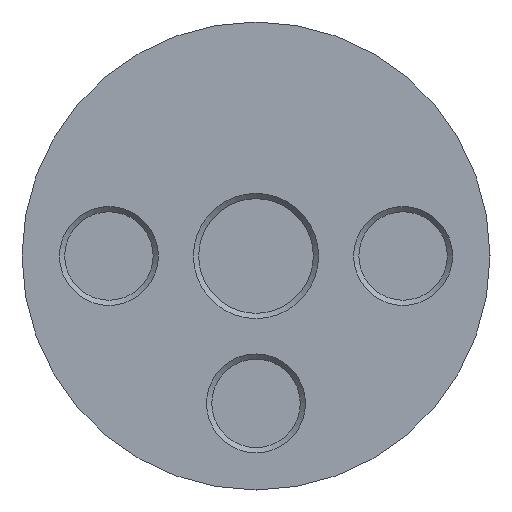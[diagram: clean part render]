
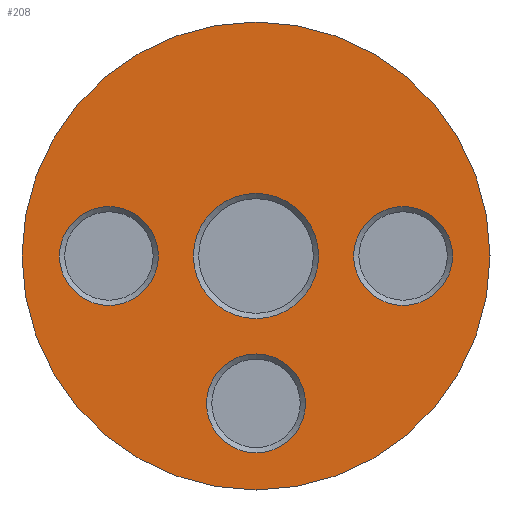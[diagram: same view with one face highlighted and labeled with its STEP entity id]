
A CAD part, front view. The second image highlights one B-rep face of the part: STEP entity #208.
In plain terms, the highlighted planar face has unit normal (0, -1, 0).
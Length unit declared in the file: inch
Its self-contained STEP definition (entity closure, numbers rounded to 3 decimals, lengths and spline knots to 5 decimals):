
#135=CARTESIAN_POINT('',(0.09252,0.09488,-0.27559));
#136=VERTEX_POINT('',#135);
#137=CARTESIAN_POINT('',(0.,0.09488,-0.27559));
#138=DIRECTION('',(0.0,-1.0,0.0));
#139=DIRECTION('',(-1.0,0.0,0.0));
#140=AXIS2_PLACEMENT_3D('',#137,#138,#139);
#141=CIRCLE('',#140,0.09252);
#142=EDGE_CURVE('',#136,#136,#141,.T.);
#147=CARTESIAN_POINT('',(0.,0.09488,0.));
#148=DIRECTION('',(0.0,1.0,0.0));
#149=DIRECTION('',(0.0,0.0,1.0));
#150=AXIS2_PLACEMENT_3D('',#147,#148,#149);
#151=PLANE('',#150);
#152=CARTESIAN_POINT('',(-0.4375,0.09488,0.0));
#153=VERTEX_POINT('',#152);
#154=CARTESIAN_POINT('',(0.4375,0.09488,0.));
#155=VERTEX_POINT('',#154);
#156=CARTESIAN_POINT('',(0.,0.09488,0.0));
#157=DIRECTION('',(0.0,1.0,0.0));
#158=DIRECTION('',(-1.0,0.0,0.0));
#159=AXIS2_PLACEMENT_3D('',#156,#157,#158);
#160=CIRCLE('',#159,0.4375);
#161=EDGE_CURVE('',#153,#155,#160,.T.);
#162=ORIENTED_EDGE('',*,*,#161,.F.);
#163=CARTESIAN_POINT('',(0.,0.09488,0.0));
#164=DIRECTION('',(0.0,1.0,0.0));
#165=DIRECTION('',(-1.0,0.0,0.0));
#166=AXIS2_PLACEMENT_3D('',#163,#164,#165);
#167=CIRCLE('',#166,0.4375);
#168=EDGE_CURVE('',#155,#153,#167,.T.);
#169=ORIENTED_EDGE('',*,*,#168,.F.);
#170=EDGE_LOOP('',(#162,#169));
#171=FACE_OUTER_BOUND('',#170,.T.);
#172=CARTESIAN_POINT('',(0.11713,0.09488,0.));
#173=VERTEX_POINT('',#172);
#174=CARTESIAN_POINT('',(0.,0.09488,0.));
#175=DIRECTION('',(0.0,-1.0,0.0));
#176=DIRECTION('',(-1.0,0.0,0.0));
#177=AXIS2_PLACEMENT_3D('',#174,#175,#176);
#178=CIRCLE('',#177,0.11713);
#179=EDGE_CURVE('',#173,#173,#178,.T.);
#180=ORIENTED_EDGE('',*,*,#179,.F.);
#181=EDGE_LOOP('',(#180));
#182=FACE_BOUND('',#181,.T.);
#183=CARTESIAN_POINT('',(-0.18248,0.09488,0.));
#184=VERTEX_POINT('',#183);
#185=CARTESIAN_POINT('',(-0.275,0.09488,0.));
#186=DIRECTION('',(0.0,-1.0,0.0));
#187=DIRECTION('',(-1.0,0.0,0.0));
#188=AXIS2_PLACEMENT_3D('',#185,#186,#187);
#189=CIRCLE('',#188,0.09252);
#190=EDGE_CURVE('',#184,#184,#189,.T.);
#191=ORIENTED_EDGE('',*,*,#190,.F.);
#192=EDGE_LOOP('',(#191));
#193=FACE_BOUND('',#192,.T.);
#194=CARTESIAN_POINT('',(0.36752,0.09488,0.));
#195=VERTEX_POINT('',#194);
#196=CARTESIAN_POINT('',(0.275,0.09488,0.));
#197=DIRECTION('',(0.0,-1.0,0.0));
#198=DIRECTION('',(-1.0,0.0,0.0));
#199=AXIS2_PLACEMENT_3D('',#196,#197,#198);
#200=CIRCLE('',#199,0.09252);
#201=EDGE_CURVE('',#195,#195,#200,.T.);
#202=ORIENTED_EDGE('',*,*,#201,.F.);
#203=EDGE_LOOP('',(#202));
#204=FACE_BOUND('',#203,.T.);
#205=ORIENTED_EDGE('',*,*,#142,.F.);
#206=EDGE_LOOP('',(#205));
#207=FACE_BOUND('',#206,.T.);
#208=ADVANCED_FACE('',(#171,#182,#193,#204,#207),#151,.F.);
